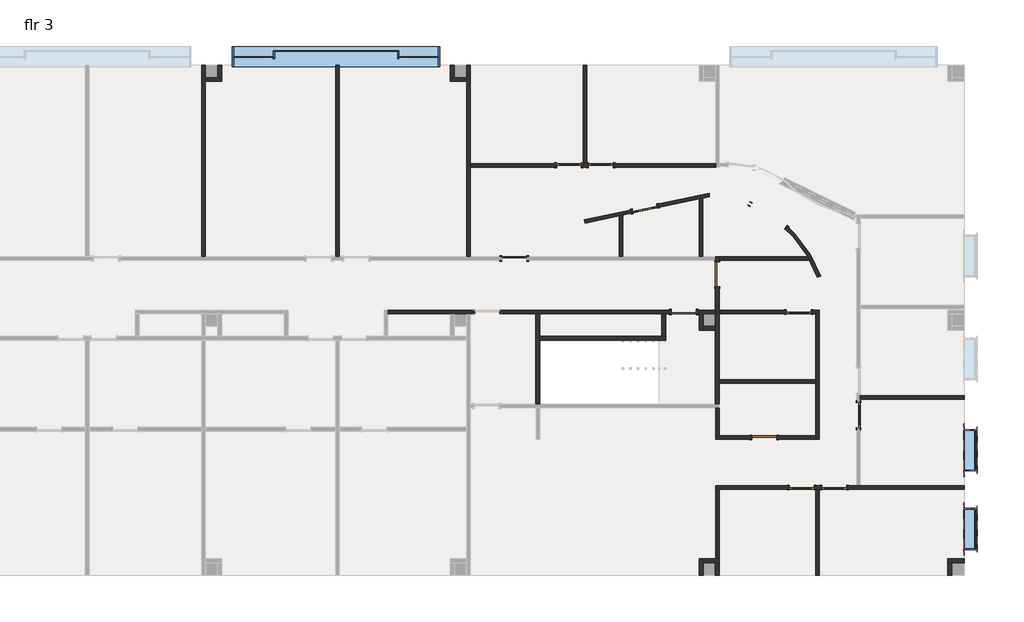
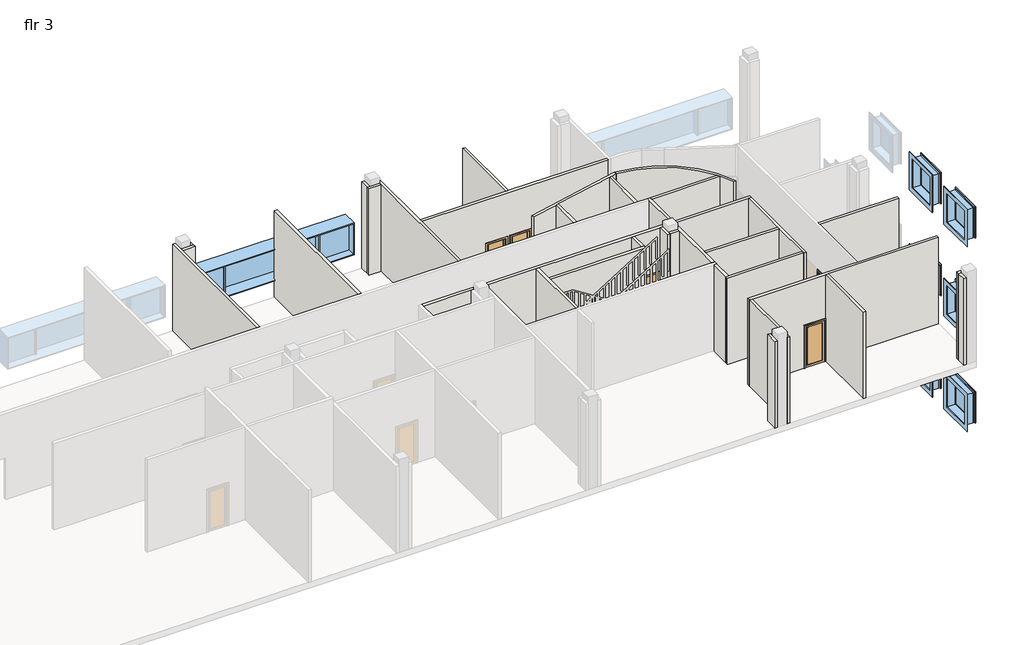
# One storey, part 3 of 4: 37 walls, 12 doors, 7 windows.
"""IFC4 building model written with IfcOpenShell, lengths in millimetres."""

from ifc_helpers import new_model, si_unit, point, frame, frame_2d, origin, place, context, project, spatial, polyline, circle_curve, trimmed, segment, composite_curve, outline, extrude, faceted_brep, transform, mapped, element, save
from ifc_brep_helpers import plane_surface, cylinder_surface, revolved_surface, advanced_brep
from components import door_5638c9d7, door_c6edcd30, door_9814c99b, door_a1797ceb, door_4364fc02, door_009a01e8, door_df34b78b, fixed_25_x5_r1_fixed_25_x5_r1_81c53d64, fixed_5_x5_e2f24dca

model = new_model("IFC4")

# Units and contexts
model_context = context("Model", 3, world=origin())
ifc_project = project(units=[si_unit("LENGTHUNIT", "METRE", prefix="MILLI")], contexts=[model_context])

# Site, building, storey
site = spatial("IfcSite", under=ifc_project)
building = spatial("IfcBuilding", under=site)
storey = spatial("IfcBuildingStorey", under=building, Name="flr 3", Elevation=10210.8)

# Doors
placement = place(None, origin())
door_shape = door_5638c9d7(model_context)
element("IfcDoor", 1, ObjectType="Cased Opening : 60\" x 84\"", at=placement, inside=storey, context=model_context, shape_type="MappedRepresentation", body=[
    mapped(door_shape, transform((-58281.2919841, 38288.5055127, 10210.8), x_axis=(0.8403114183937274, -0.5421039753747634, 0.0), y_axis=(0.5421039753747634, 0.8403114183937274, 0.0), z_axis=(0.0, 0.0, 1.0))),
])
door_2_shape = door_c6edcd30(model_context)
element("IfcDoor", 2, ObjectType="Sgl Flush : 36\" x 84\"", at=placement, inside=storey, context=model_context, shape_type="MappedRepresentation", body=[
    mapped(door_2_shape, transform((-60160.840902, 36141.1571029, 10210.8), x_axis=(0.0, 1.0, 0.0), y_axis=(-1.0, 0.0, 0.0), z_axis=(0.0, 0.0, 1.0))),
])
door_3_shape = door_9814c99b(model_context)
element("IfcDoor", 3, ObjectType="Sgl Flush : 36\" x 84\"", at=placement, inside=storey, context=model_context, shape_type="MappedRepresentation", body=[
    mapped(door_3_shape, transform((-61399.090902, 34756.8571029, 10210.8), x_axis=(1.0, 0.0, 0.0), y_axis=(0.0, 1.0, 0.0), z_axis=(0.0, 0.0, 1.0))),
])
door_4_shape = door_a1797ceb(model_context)
element("IfcDoor", 4, ObjectType="Sgl Flush : 36\" x 84\"", at=placement, inside=storey, context=model_context, shape_type="MappedRepresentation", body=[
    mapped(door_4_shape, transform((-58433.640902, 30146.7571029, 10210.8), x_axis=(1.0, 0.0, 0.0), y_axis=(0.0, 1.0, 0.0), z_axis=(0.0, 0.0, 1.0))),
])
door_5_shape = door_4364fc02(model_context)
element("IfcDoor", 5, ObjectType="Sgl-Glass 1 : 36\" x 84\"", at=placement, inside=storey, context=model_context, shape_type="MappedRepresentation", body=[
    mapped(door_5_shape, transform((-67628.440902, 36725.3571029, 10210.8), x_axis=(-1.0, 0.0, 0.0), y_axis=(0.0, -1.0, 0.0), z_axis=(0.0, 0.0, 1.0))),
])
door_6_shape = door_009a01e8(model_context)
element("IfcDoor", 6, ObjectType="Sgl-Glass 1 : 36\" x 84\"", at=placement, inside=storey, context=model_context, shape_type="MappedRepresentation", body=[
    mapped(door_6_shape, transform((-65615.490902, 40148.0071029, 10210.8), x_axis=(1.0, 0.0, 0.0), y_axis=(0.0, 1.0, 0.0), z_axis=(0.0, 0.0, 1.0))),
])
element("IfcDoor", 7, ObjectType="Sgl-Glass 1 : 36\" x 84\"", at=placement, inside=storey, context=model_context, shape_type="MappedRepresentation", body=[
    mapped(door_6_shape, transform((-55868.240902, 28305.2571029, 10210.8), x_axis=(-1.0, 0.0, 0.0), y_axis=(0.0, -1.0, 0.0), z_axis=(0.0, 0.0, 1.0))),
])
element("IfcDoor", 8, ObjectType="Sgl-Glass 1 : 36\" x 84\"", at=placement, inside=storey, context=model_context, shape_type="MappedRepresentation", body=[
    mapped(door_6_shape, transform((-62821.0675409, 38559.6493203, 10210.8), x_axis=(-0.9777153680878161, -0.20993489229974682, 0.0), y_axis=(0.20993489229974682, -0.9777153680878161, 0.0), z_axis=(0.0, 0.0, 1.0))),
])
door_7_shape = door_df34b78b(model_context)
element("IfcDoor", 9, ObjectType="Sgl-Glass 1 : 36\" x 84\"", at=placement, inside=storey, context=model_context, shape_type="MappedRepresentation", body=[
    mapped(door_7_shape, transform((-64447.090902, 40148.0071029, 10210.8), x_axis=(-1.0, 0.0, 0.0), y_axis=(0.0, -1.0, 0.0), z_axis=(0.0, 0.0, 1.0))),
])
element("IfcDoor", 10, ObjectType="Sgl-Glass 1 : 36\" x 84\"", at=placement, inside=storey, context=model_context, shape_type="MappedRepresentation", body=[
    mapped(door_7_shape, transform((-54972.890902, 30963.7904363, 10210.8), x_axis=(0.0, 1.0, 0.0), y_axis=(-1.0, 0.0, 0.0), z_axis=(0.0, 0.0, 1.0))),
])
element("IfcDoor", 11, ObjectType="Sgl-Glass 1 : 36\" x 84\"", at=placement, inside=storey, context=model_context, shape_type="MappedRepresentation", body=[
    mapped(door_7_shape, transform((-57062.040902, 28305.2571029, 10210.8), x_axis=(1.0, 0.0, 0.0), y_axis=(0.0, 1.0, 0.0), z_axis=(0.0, 0.0, 1.0))),
])
element("IfcDoor", 12, ObjectType="Sgl-Glass 1 : 36\" x 84\"", at=placement, inside=storey, context=model_context, shape_type="MappedRepresentation", body=[
    mapped(door_7_shape, transform((-57163.640902, 34756.8571029, 10210.8), x_axis=(1.0, 0.0, 0.0), y_axis=(0.0, 1.0, 0.0), z_axis=(0.0, 0.0, 1.0))),
])

# Walls
element("IfcWall", 13, ObjectType="Curtain Wall 1", at=placement, inside=storey, context=model_context, shape_type="SweptSolid", body=[
    extrude(outline(composite_curve([segment(polyline([(-57698.775595, 39702.8590145), (-57873.0927335, 39452.8258663)]), True, "CONTINUOUS"), segment(trimmed(circle_curve(frame_2d((-59701.4569562, 36830.2973714)), 3196.9628457), [point((-57873.0927335, 39452.8258663))], [point((-58706.1237347, 39868.3696575))], True, "CARTESIAN"), True, "CONTINUOUS"), segment(polyline([(-58706.1237347, 39868.3696575), (-58611.228179, 40158.0209539)]), True, "CONTINUOUS"), segment(trimmed(circle_curve(frame_2d((-59701.4569562, 36830.2973714)), 3501.7628457), [point((-58611.228179, 40158.0209539))], [point((-57698.775595, 39702.8590145))], False, "CARTESIAN"), True, "CONTINUOUS")], self_intersect=False)), frame((0.0, 0.0, 10210.8), z_axis=(0.0, 0.0, 1.0), x_axis=(1.0, 0.0, 0.0)), (0.0, 0.0, 1.0), 2995.2898284),
])
element("IfcWall", 14, ObjectType="Interior - 4 7/8\" Partition (1-hr)", at=placement, inside=storey, context=model_context, shape_type="SweptSolid", body=[
    extrude(outline(polyline([(-64967.790902, 43832.5946029), (-64967.790902, 40211.5071029), (-65094.790902, 40211.5071029), (-65094.790902, 43832.5946029), (-64967.790902, 43832.5946029)])), frame((0.0, 0.0, 10210.8), z_axis=(0.0, 0.0, 1.0), x_axis=(1.0, 0.0, 0.0)), (0.0, 0.0, 1.0), 4419.6),
])
element("IfcWall", 15, ObjectType="Interior - 4 7/8\" Partition (1-hr)", at=placement, inside=storey, context=model_context, shape_type="Brep", body=[
    faceted_brep([(-64904.290902, 40211.5071029, 12344.4), (-64904.290902, 40211.5071029, 10210.8), (-64967.790902, 40211.5071029, 10210.8), (-65094.790902, 40211.5071029, 10210.8), (-65158.290902, 40211.5071029, 10210.8), (-65158.290902, 40211.5071029, 12344.4), (-66072.690902, 40211.5071029, 12344.4), (-66072.690902, 40211.5071029, 10210.8), (-69234.990902, 40211.5071029, 10210.8), (-69234.990902, 40211.5071029, 14630.4), (-65094.790902, 40211.5071029, 14630.4), (-64967.790902, 40211.5071029, 14630.4), (-60224.340902, 40211.5071029, 14630.4), (-60224.340902, 40211.5071029, 10210.8), (-63989.890902, 40211.5071029, 10210.8), (-63989.890902, 40211.5071029, 12344.4), (-65158.290902, 40084.5071029, 10210.8), (-64904.290902, 40084.5071029, 10210.8), (-64904.290902, 40084.5071029, 12344.4), (-63989.890902, 40084.5071029, 12344.4), (-63989.890902, 40084.5071029, 10210.8), (-60224.340902, 40084.5071029, 10210.8), (-60224.340902, 40084.5071029, 14630.4), (-69234.990902, 40084.5071029, 14630.4), (-69234.990902, 40084.5071029, 10210.8), (-66072.690902, 40084.5071029, 10210.8), (-66072.690902, 40084.5071029, 12344.4), (-65158.290902, 40084.5071029, 12344.4)], [[[0, 1, 2, 3, 4, 5, 6, 7, 8, 9, 10, 11, 12, 13, 14, 15]], [[16, 17, 18, 19, 20, 21, 22, 23, 24, 25, 26, 27]], [[4, 3, 2, 1, 17, 16]], [[25, 24, 8, 7]], [[14, 13, 21, 20]], [[13, 12, 22, 21]], [[9, 8, 24, 23]], [[12, 11, 10, 9, 23, 22]], [[5, 4, 16, 27]], [[6, 5, 27, 26]], [[7, 6, 26, 25]], [[18, 17, 1, 0]], [[19, 18, 0, 15]], [[20, 19, 15, 14]]]),
])
element("IfcWall", 16, ObjectType="Interior - 4 7/8\" Partition (1-hr)", at=placement, inside=storey, context=model_context, shape_type="Brep", body=[
    faceted_brep([(-56325.440902, 28368.7571029, 10210.8), (-56604.840902, 28368.7571029, 10210.8), (-56604.840902, 28368.7571029, 12344.4), (-57519.240902, 28368.7571029, 12344.4), (-57519.240902, 28368.7571029, 10210.8), (-60224.340902, 28368.7571029, 10210.8), (-60224.340902, 28368.7571029, 14630.4), (-55036.390902, 28368.7571029, 14630.4), (-54909.390902, 28368.7571029, 14630.4), (-51085.103402, 28368.7571029, 14630.4), (-51085.103402, 28368.7571029, 10210.8), (-54909.390902, 28368.7571029, 10210.8), (-55036.390902, 28368.7571029, 10210.8), (-55411.040902, 28368.7571029, 10210.8), (-55411.040902, 28368.7571029, 12344.4), (-56325.440902, 28368.7571029, 12344.4), (-56604.840902, 28241.7571029, 12344.4), (-56604.840902, 28241.7571029, 10210.8), (-56541.340902, 28241.7571029, 10210.8), (-56414.340902, 28241.7571029, 10210.8), (-56325.440902, 28241.7571029, 10210.8), (-56325.440902, 28241.7571029, 12344.4), (-55411.040902, 28241.7571029, 12344.4), (-55411.040902, 28241.7571029, 10210.8), (-51085.103402, 28241.7571029, 10210.8), (-51085.103402, 28241.7571029, 14630.4), (-56414.340902, 28241.7571029, 14630.4), (-56541.340902, 28241.7571029, 14630.4), (-60097.340902, 28241.7571029, 14630.4), (-60224.340902, 28241.7571029, 14630.4), (-60224.340902, 28241.7571029, 10210.8), (-60097.340902, 28241.7571029, 10210.8), (-57519.240902, 28241.7571029, 10210.8), (-57519.240902, 28241.7571029, 12344.4)], [[[0, 1, 2, 3, 4, 5, 6, 7, 8, 9, 10, 11, 12, 13, 14, 15]], [[16, 17, 18, 19, 20, 21, 22, 23, 24, 25, 26, 27, 28, 29, 30, 31, 32, 33]], [[20, 19, 18, 17, 1, 0]], [[13, 12, 11, 10, 24, 23]], [[32, 31, 30, 5, 4]], [[6, 5, 30, 29]], [[10, 9, 25, 24]], [[9, 8, 7, 6, 29, 28, 27, 26, 25]], [[21, 20, 0, 15]], [[22, 21, 15, 14]], [[23, 22, 14, 13]], [[2, 1, 17, 16]], [[3, 2, 16, 33]], [[4, 3, 33, 32]]]),
])
element("IfcWall", 17, ObjectType="Interior - 4 7/8\" Partition (1-hr)", at=placement, inside=storey, context=model_context, shape_type="SweptSolid", body=[
    extrude(outline(polyline([(-60097.340902, 28241.7571029), (-60097.340902, 25682.7071029), (-60224.340902, 25682.7071029), (-60224.340902, 28241.7571029), (-60097.340902, 28241.7571029)])), frame((0.0, 0.0, 10210.8), z_axis=(0.0, 0.0, 1.0), x_axis=(1.0, 0.0, 0.0)), (0.0, 0.0, 1.0), 4419.6),
])
element("IfcWall", 18, ObjectType="Interior - 4 7/8\" Partition (1-hr)", at=placement, inside=storey, context=model_context, shape_type="SweptSolid", body=[
    extrude(outline(polyline([(-54909.390902, 31687.6904363), (-51085.103402, 31687.6904363), (-51085.103402, 31560.6904363), (-54909.390902, 31560.6904363), (-54909.390902, 31687.6904363)])), frame((0.0, 0.0, 10210.8), z_axis=(0.0, 0.0, 1.0), x_axis=(1.0, 0.0, 0.0)), (0.0, 0.0, 1.0), 4419.6),
])
element("IfcWall", 19, ObjectType="Interior - 4 7/8\" Partition (1-hr)", at=placement, inside=storey, context=model_context, shape_type="SweptSolid", body=[
    extrude(outline(polyline([(-63646.990902, 38317.3598569), (-63646.990902, 36795.2071029), (-63773.990902, 36795.2071029), (-63773.990902, 38290.0904366), (-63646.990902, 38317.3598569)])), frame((0.0, 0.0, 10210.8), z_axis=(0.0, 0.0, 1.0), x_axis=(1.0, 0.0, 0.0)), (0.0, 0.0, 1.0), 4419.6),
])
element("IfcWall", 20, ObjectType="Interior - 4 7/8\" Partition (1-hr)", at=placement, inside=storey, context=model_context, shape_type="SweptSolid", body=[
    extrude(outline(composite_curve([segment(polyline([(-56766.3376555, 36661.8571029), (-60090.990902, 36661.8571029), (-60090.990902, 36788.8571029), (-56838.8298788, 36788.8571029)]), True, "CONTINUOUS"), segment(trimmed(circle_curve(frame_2d((-60739.4072805, 34478.1989199)), 4533.6128314), [point((-56838.8298788, 36788.8571029))], [point((-56766.3376555, 36661.8571029))], False, "CARTESIAN"), True, "CONTINUOUS")], self_intersect=False)), frame((0.0, 0.0, 10210.8), z_axis=(0.0, 0.0, 1.0), x_axis=(1.0, 0.0, 0.0)), (0.0, 0.0, 1.0), 4419.6),
])
element("IfcWall", 21, ObjectType="Interior - 4 7/8\" Partition (1-hr)", at=placement, inside=storey, context=model_context, shape_type="AdvancedBrep", body=[
    advanced_brep(
    [(-56479.8522527, 36030.5636548, 10210.8), (-56766.3376555, 36661.8571029, 10210.8), (-56838.8298788, 36788.8571029, 10210.8), (-57676.3642184, 37820.5652232, 10210.8), (-57606.5510808, 37928.7820585, 10210.8), (-56360.5294281, 36074.0500152, 10210.8), (-58956.99882, 38646.7316816, 10210.8), (-60454.5013438, 39002.8507201, 10210.8), (-60464.140351, 39130.6756885, 10210.8), (-58887.1856825, 38754.948517, 10210.8), (-57676.3642184, 37820.5652232, 12344.4), (-56479.8522527, 36030.5636548, 14630.4), (-56766.3376555, 36661.8571029, 14630.4), (-56838.8298788, 36788.8571029, 14630.4), (-60454.5013438, 39002.8507201, 14630.4), (-58956.99882, 38646.7316816, 12344.4), (-56360.5294281, 36074.0500152, 14630.4), (-57606.5510808, 37928.7820585, 12344.4), (-58887.1856825, 38754.948517, 12344.4), (-60464.140351, 39130.6756885, 14630.4)],
    [
        (0, 1, circle_curve(frame((-60739.4072805, 34478.1989199, 10210.8), z_axis=(0.0, 0.0, 1.0), x_axis=(1.0, 0.0, 0.0)), 4533.6128314)),
        (1, 2, circle_curve(frame((-60739.4072805, 34478.1989199, 10210.8), z_axis=(0.0, 0.0, 1.0), x_axis=(1.0, 0.0, 0.0)), 4533.6128314)),
        (2, 3, circle_curve(frame((-60739.4072805, 34478.1989199, 10210.8), z_axis=(0.0, 0.0, 1.0), x_axis=(1.0, 0.0, 0.0)), 4533.6128314)),
        (3, 4),
        (4, 5, circle_curve(frame((-60739.4072805, 34478.1989199, 10210.8), z_axis=(0.0, 0.0, -1.0), x_axis=(1.0, 0.0, 0.0)), 4660.6128314)),
        (5, 0),
        (6, 7, circle_curve(frame((-60739.4072805, 34478.1989199, 10210.8), z_axis=(0.0, 0.0, 1.0), x_axis=(1.0, 0.0, 0.0)), 4533.6128314)),
        (7, 8),
        (8, 9, circle_curve(frame((-60739.4072805, 34478.1989199, 10210.8), z_axis=(0.0, 0.0, -1.0), x_axis=(1.0, 0.0, 0.0)), 4660.6128314)),
        (9, 6),
        (10, 3),
        (0, 11),
        (11, 12, circle_curve(frame((-60739.4072805, 34478.1989199, 14630.4), z_axis=(0.0, 0.0, 1.0), x_axis=(1.0, 0.0, 0.0)), 4533.6128314)),
        (12, 13, circle_curve(frame((-60739.4072805, 34478.1989199, 14630.4), z_axis=(0.0, 0.0, 1.0), x_axis=(1.0, 0.0, 0.0)), 4533.6128314)),
        (13, 14, circle_curve(frame((-60739.4072805, 34478.1989199, 14630.4), z_axis=(0.0, 0.0, 1.0), x_axis=(1.0, 0.0, 0.0)), 4533.6128314)),
        (14, 7),
        (6, 15),
        (15, 10, circle_curve(frame((-60739.4072805, 34478.1989199, 12344.4), z_axis=(0.0, 0.0, -1.0), x_axis=(1.0, 0.0, 0.0)), 4533.6128314)),
        (16, 11),
        (5, 16),
        (4, 17),
        (17, 18, circle_curve(frame((-60739.4072805, 34478.1989199, 12344.4), z_axis=(0.0, 0.0, 1.0), x_axis=(1.0, 0.0, 0.0)), 4660.6128314)),
        (18, 9),
        (8, 19),
        (19, 16, circle_curve(frame((-60739.4072805, 34478.1989199, 14630.4), z_axis=(0.0, 0.0, -1.0), x_axis=(1.0, 0.0, 0.0)), 4660.6128314)),
        (14, 19),
        (10, 17),
        (15, 18),
    ],
    [
        plane_surface(frame((-56205.7944491, 34478.1989199, 10210.8), z_axis=(0.0, 0.0, -1.0), x_axis=(0.0, 1.0, 0.0))),
        revolved_surface(polyline([(-56205.7944491, 34478.1989199, 10210.8), (-56205.7944491, 34478.1989199, 14630.4)]), (-60739.4072805, 34478.1989199, 10210.8), (0.0, 0.0, -1.0)),
        plane_surface(frame((-56479.8522527, 36030.5636548, 14630.4), z_axis=(0.34241228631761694, -0.9395497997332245, 0.0), x_axis=(0.0, 0.0, -1.0))),
        cylinder_surface(frame((-60739.4072805, 34478.1989199, 10210.8), z_axis=(0.0, 0.0, 1.0), x_axis=(1.0, 0.0, 0.0)), 4660.6128314),
        plane_surface(frame((-60464.140351, 39130.6756885, 10210.8), z_axis=(-0.9971688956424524, -0.07519437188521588, 0.0), x_axis=(0.07519437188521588, -0.9971688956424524, 0.0))),
        plane_surface(frame((-51085.103402, 43832.5946029, 14630.4), z_axis=(0.0, 0.0, 1.0), x_axis=(0.0, -1.0, 0.0))),
        plane_surface(frame((-57606.5510808, 37928.7820585, 10210.8), z_axis=(-0.8403114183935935, 0.5421039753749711, 0.0), x_axis=(-0.5421039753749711, -0.8403114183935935, 0.0))),
        plane_surface(frame((-57606.5510808, 37928.7820585, 12344.4), z_axis=(0.0, 0.0, -1.0000000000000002), x_axis=(-0.5421039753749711, -0.8403114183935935, 0.0))),
        plane_surface(frame((-58887.1856825, 38754.948517, 12344.4), z_axis=(0.8403114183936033, -0.5421039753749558, 0.0), x_axis=(-0.5421039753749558, -0.8403114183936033, 0.0))),
    ],
    [
        (0, [[1, 2, 3, 4, 5, 6]]),
        (0, [[7, 8, 9, 10]]),
        (1, [[11, -3, -2, -1, 12, 13, 14, 15, 16, -7, 17, 18]]),
        (2, [[19, -12, -6, 20]]),
        (3, [[-5, 21, 22, 23, -9, 24, 25, -20]]),
        (4, [[26, -24, -8, -16]]),
        (5, [[-15, -14, -13, -19, -25, -26]]),
        (6, [[-21, -4, -11, 27]]),
        (7, [[-22, -27, -18, 28]]),
        (8, [[-23, -28, -17, -10]]),
    ],
),
])
element("IfcWall", 22, ObjectType="Interior - 4 7/8\" Partition (1-hr)", at=placement, inside=storey, context=model_context, shape_type="Brep", body=[
    faceted_brep([(-63281.4098729, 38525.7520134, 12344.4), (-63281.4098729, 38525.7520134, 10210.8), (-65044.6217677, 38147.1554286, 10210.8), (-65044.6217677, 38147.1554286, 14630.4), (-60464.140351, 39130.6756885, 14630.4), (-60464.140351, 39130.6756885, 10210.8), (-62387.3869403, 38717.7164789, 10210.8), (-62387.3869403, 38717.7164789, 12344.4), (-65017.9600364, 38022.9855769, 10210.8), (-63773.990902, 38290.0904366, 10210.8), (-63646.990902, 38317.3598569, 10210.8), (-63254.7481416, 38401.5821617, 10210.8), (-63254.7481416, 38401.5821617, 12344.4), (-62360.725209, 38593.5466272, 12344.4), (-62360.725209, 38593.5466272, 10210.8), (-60821.240902, 38924.104459, 10210.8), (-60694.240902, 38951.3738793, 10210.8), (-60454.5013438, 39002.8507201, 10210.8), (-60454.5013438, 39002.8507201, 14630.4), (-60694.240902, 38951.3738793, 14630.4), (-60821.240902, 38924.104459, 14630.4), (-63646.990902, 38317.3598569, 14630.4), (-63773.990902, 38290.0904366, 14630.4), (-65017.9600364, 38022.9855769, 14630.4)], [[[0, 1, 2, 3, 4, 5, 6, 7]], [[8, 9, 10, 11, 12, 13, 14, 15, 16, 17, 18, 19, 20, 21, 22, 23]], [[2, 1, 11, 10, 9, 8]], [[6, 5, 17, 16, 15, 14]], [[3, 2, 8, 23]], [[5, 4, 18, 17]], [[4, 3, 23, 22, 21, 20, 19, 18]], [[12, 11, 1, 0]], [[13, 12, 0, 7]], [[14, 13, 7, 6]]]),
])
element("IfcWall", 23, ObjectType="Interior - 4 7/8\" Partition (1-hr)", at=placement, inside=storey, context=model_context, shape_type="Brep", body=[
    faceted_brep([(-56706.440902, 34693.3571029, 12344.4), (-56706.440902, 34693.3571029, 10210.8), (-56541.340902, 34693.3571029, 10210.8), (-56414.340902, 34693.3571029, 10210.8), (-56414.340902, 34693.3571029, 14630.4), (-56541.340902, 34693.3571029, 14630.4), (-60090.990902, 34693.3571029, 14630.4), (-60090.990902, 34693.3571029, 10210.8), (-57620.840902, 34693.3571029, 10210.8), (-57620.840902, 34693.3571029, 12344.4), (-56414.340902, 34820.3571029, 10210.8), (-56706.440902, 34820.3571029, 10210.8), (-56706.440902, 34820.3571029, 12344.4), (-57620.840902, 34820.3571029, 12344.4), (-57620.840902, 34820.3571029, 10210.8), (-60090.990902, 34820.3571029, 10210.8), (-60090.990902, 34820.3571029, 14630.4), (-56414.340902, 34820.3571029, 14630.4), (-60090.990902, 34756.8571029, 10210.8), (-60090.990902, 34756.8571029, 14630.4)], [[[0, 1, 2, 3, 4, 5, 6, 7, 8, 9]], [[10, 11, 12, 13, 14, 15, 16, 17]], [[3, 2, 1, 11, 10]], [[8, 7, 18, 15, 14]], [[4, 3, 10, 17]], [[7, 6, 19, 16, 15, 18]], [[6, 5, 4, 17, 16, 19]], [[12, 11, 1, 0]], [[13, 12, 0, 9]], [[14, 13, 9, 8]]]),
])
element("IfcWall", 24, ObjectType="Interior - 4 7/8\" Partition (1-hr)", at=placement, inside=storey, context=model_context, shape_type="Brep", body=[
    faceted_brep([(-56541.340902, 34693.3571029, 10210.8), (-56541.340902, 32267.6571029, 10210.8), (-56541.340902, 32140.6571029, 10210.8), (-56541.340902, 30210.2571029, 10210.8), (-56541.340902, 30083.2571029, 10210.8), (-56541.340902, 30083.2571029, 14630.4), (-56541.340902, 30210.2571029, 14630.4), (-56541.340902, 32140.6571029, 14630.4), (-56541.340902, 32267.6571029, 14630.4), (-56541.340902, 34693.3571029, 14630.4), (-56414.340902, 34693.3571029, 10210.8), (-56414.340902, 34693.3571029, 14630.4), (-56414.340902, 30083.2571029, 14630.4), (-56414.340902, 30083.2571029, 10210.8)], [[[0, 1, 2, 3, 4, 5, 6, 7, 8, 9]], [[10, 11, 12, 13]], [[4, 3, 2, 1, 0, 10, 13]], [[5, 4, 13, 12]], [[0, 9, 11, 10]], [[9, 8, 7, 6, 5, 12, 11]]]),
])
element("IfcWall", 25, ObjectType="Interior - 4 7/8\" Partition (1-hr)", at=placement, inside=storey, context=model_context, shape_type="Brep", body=[
    faceted_brep([(-56541.340902, 30210.2571029, 10210.8), (-57976.440902, 30210.2571029, 10210.8), (-57976.440902, 30210.2571029, 12344.4), (-58890.840902, 30210.2571029, 12344.4), (-58890.840902, 30210.2571029, 10210.8), (-60097.340902, 30210.2571029, 10210.8), (-60224.340902, 30210.2571029, 10210.8), (-60224.340902, 30210.2571029, 14630.4), (-60097.340902, 30210.2571029, 14630.4), (-56541.340902, 30210.2571029, 14630.4), (-57976.440902, 30083.2571029, 12344.4), (-57976.440902, 30083.2571029, 10210.8), (-56541.340902, 30083.2571029, 10210.8), (-56541.340902, 30083.2571029, 14630.4), (-60224.340902, 30083.2571029, 14630.4), (-60224.340902, 30083.2571029, 10210.8), (-58890.840902, 30083.2571029, 10210.8), (-58890.840902, 30083.2571029, 12344.4)], [[[0, 1, 2, 3, 4, 5, 6, 7, 8, 9]], [[10, 11, 12, 13, 14, 15, 16, 17]], [[12, 11, 1, 0]], [[16, 15, 6, 5, 4]], [[7, 6, 15, 14]], [[0, 9, 13, 12]], [[9, 8, 7, 14, 13]], [[2, 1, 11, 10]], [[3, 2, 10, 17]], [[4, 3, 17, 16]]]),
])
element("IfcWall", 26, ObjectType="Interior - 4 7/8\" Partition (1-hr)", at=placement, inside=storey, context=model_context, shape_type="SweptSolid", body=[
    extrude(outline(polyline([(-60097.340902, 31232.6071029), (-60097.340902, 30210.2571029), (-60224.340902, 30210.2571029), (-60224.340902, 31232.6071029), (-60097.340902, 31232.6071029)])), frame((0.0, 0.0, 10210.8), z_axis=(0.0, 0.0, 1.0), x_axis=(1.0, 0.0, 0.0)), (0.0, 0.0, 1.0), 4419.6),
])
element("IfcWall", 27, ObjectType="Interior - 4 7/8\" Partition (1-hr)", at=placement, inside=storey, context=model_context, shape_type="SweptSolid", body=[
    extrude(outline(polyline([(-60821.240902, 36795.2071029), (-60821.240902, 38924.104459), (-60694.240902, 38951.3738793), (-60694.240902, 36795.2071029), (-60821.240902, 36795.2071029)])), frame((0.0, 0.0, 10210.8), z_axis=(0.0, 0.0, 1.0), x_axis=(1.0, 0.0, 0.0)), (0.0, 0.0, 1.0), 4419.6),
])
element("IfcWall", 28, ObjectType="Interior - 4 7/8\" Partition (1-hr)", at=placement, inside=storey, context=model_context, shape_type="SweptSolid", body=[
    extrude(outline(polyline([(-60090.990902, 32267.6571029), (-56541.340902, 32267.6571029), (-56541.340902, 32140.6571029), (-60090.990902, 32140.6571029), (-60090.990902, 32267.6571029)])), frame((0.0, 0.0, 10210.8), z_axis=(0.0, 0.0, 1.0), x_axis=(1.0, 0.0, 0.0)), (0.0, 0.0, 1.0), 4419.6),
])
element("IfcWall", 29, ObjectType="Interior - 4 7/8\" Partition (1-hr)", at=placement, inside=storey, context=model_context, shape_type="SweptSolid", body=[
    extrude(outline(polyline([(-56541.340902, 25084.2196029), (-56541.340902, 28241.7571029), (-56414.340902, 28241.7571029), (-56414.340902, 25084.2196029), (-56541.340902, 25084.2196029)])), frame((0.0, 0.0, 10210.8), z_axis=(0.0, 0.0, 1.0), x_axis=(1.0, 0.0, 0.0)), (0.0, 0.0, 1.0), 4419.6),
])
element("IfcWall", 30, ObjectType="Interior - 5 1/2\" Partition (1-hr)", at=placement, inside=storey, context=model_context, shape_type="SweptSolid", body=[
    extrude(outline(polyline([(-62205.540902, 33867.8571029), (-62205.540902, 34687.0071029), (-62065.840902, 34687.0071029), (-62065.840902, 33867.8571029), (-62205.540902, 33867.8571029)])), frame((0.0, 0.0, 10210.8), z_axis=(0.0, 0.0, 1.0), x_axis=(1.0, 0.0, 0.0)), (0.0, 0.0, 1.0), 4419.6),
])
element("IfcWall", 31, ObjectType="Interior - 5 1/2\" Partition (1-hr)", at=placement, inside=storey, context=model_context, shape_type="Brep", body=[
    faceted_brep([(-60827.590902, 34687.0071029, 10210.8), (-60827.590902, 34090.1071029, 10210.8), (-60827.590902, 34090.1071029, 14630.4), (-60827.590902, 34687.0071029, 14630.4), (-60687.890902, 34687.0071029, 10210.8), (-60687.890902, 34687.0071029, 14630.4), (-60687.890902, 34229.8071029, 14630.4), (-60687.890902, 34090.1071029, 14630.4), (-60687.890902, 34090.1071029, 10210.8), (-60687.890902, 34229.8071029, 10210.8)], [[[0, 1, 2, 3]], [[4, 5, 6, 7, 8, 9]], [[1, 0, 4, 9, 8]], [[2, 1, 8, 7]], [[0, 3, 5, 4]], [[3, 2, 7, 6, 5]]]),
])
element("IfcWall", 32, ObjectType="Interior - 5 1/2\" Partition (1-hr)", at=placement, inside=storey, context=model_context, shape_type="SweptSolid", body=[
    extrude(outline(polyline([(-60687.890902, 34229.8071029), (-60230.690902, 34229.8071029), (-60230.690902, 34090.1071029), (-60687.890902, 34090.1071029), (-60687.890902, 34229.8071029)])), frame((0.0, 0.0, 10210.8), z_axis=(0.0, 0.0, 1.0), x_axis=(1.0, 0.0, 0.0)), (0.0, 0.0, 1.0), 4419.6),
])
element("IfcWall", 33, ObjectType="Interior - 5 1/2\" Partition (1-hr)", at=placement, inside=storey, context=model_context, shape_type="Brep", body=[
    faceted_brep([(-66828.340902, 34687.0071029, 10210.8), (-66828.340902, 31372.3071029, 10210.8), (-66828.340902, 31372.3071029, 14630.4), (-66828.340902, 34687.0071029, 14630.4), (-66688.640902, 34687.0071029, 10210.8), (-66688.640902, 34687.0071029, 14630.4), (-66688.640902, 33867.8571029, 14630.4), (-66688.640902, 33728.1571029, 14630.4), (-66688.640902, 31372.3071029, 14630.4), (-66688.640902, 31372.3071029, 10210.8), (-66688.640902, 33728.1571029, 10210.8), (-66688.640902, 33867.8571029, 10210.8)], [[[0, 1, 2, 3]], [[4, 5, 6, 7, 8, 9, 10, 11]], [[1, 0, 4, 11, 10, 9]], [[2, 1, 9, 8]], [[0, 3, 5, 4]], [[3, 2, 8, 7, 6, 5]]]),
])
element("IfcWall", 34, ObjectType="Interior - 5 1/2\" Partition (1-hr)", at=placement, inside=storey, context=model_context, shape_type="Brep", body=[
    faceted_brep([(-66688.640902, 33728.1571029, 10210.8), (-62065.840902, 33728.1571029, 10210.8), (-62065.840902, 33728.1571029, 14630.4), (-66688.640902, 33728.1571029, 14630.4), (-66688.640902, 33867.8571029, 10210.8), (-66688.640902, 33867.8571029, 14630.4), (-62205.540902, 33867.8571029, 14630.4), (-62065.840902, 33867.8571029, 14630.4), (-62065.840902, 33867.8571029, 10210.8), (-62205.540902, 33867.8571029, 10210.8)], [[[0, 1, 2, 3]], [[4, 5, 6, 7, 8, 9]], [[1, 0, 4, 9, 8]], [[2, 1, 8, 7]], [[0, 3, 5, 4]], [[3, 2, 7, 6, 5]]]),
])
element("IfcWall", 35, ObjectType="Interior - 5 1/2\" Partition (1-hr)", at=placement, inside=storey, context=model_context, shape_type="Brep", body=[
    faceted_brep([(-69234.990902, 36795.2071029, 10210.8), (-69234.990902, 40084.5071029, 10210.8), (-69234.990902, 40211.5071029, 10210.8), (-69234.990902, 43832.5946029, 10210.8), (-69234.990902, 43832.5946029, 14630.4), (-69234.990902, 40211.5071029, 14630.4), (-69234.990902, 40084.5071029, 14630.4), (-69234.990902, 36795.2071029, 14630.4), (-69374.690902, 36795.2071029, 10210.8), (-69374.690902, 36795.2071029, 14630.4), (-69374.690902, 43234.1071029, 14630.4), (-69374.690902, 43373.8071029, 14630.4), (-69374.690902, 43832.5946029, 14630.4), (-69374.690902, 43832.5946029, 10210.8), (-69374.690902, 43373.8071029, 10210.8), (-69374.690902, 43234.1071029, 10210.8)], [[[0, 1, 2, 3, 4, 5, 6, 7]], [[8, 9, 10, 11, 12, 13, 14, 15]], [[3, 2, 1, 0, 8, 15, 14, 13]], [[0, 7, 9, 8]], [[4, 3, 13, 12]], [[7, 6, 5, 4, 12, 11, 10, 9]]]),
])
element("IfcWall", 36, ObjectType="Interior - 5 1/2\" Partition (1-hr)", at=placement, inside=storey, context=model_context, shape_type="Brep", body=[
    faceted_brep([(-69374.690902, 43373.8071029, 10210.8), (-69831.890902, 43373.8071029, 10210.8), (-69971.590902, 43373.8071029, 10210.8), (-69971.590902, 43373.8071029, 14630.4), (-69831.890902, 43373.8071029, 14630.4), (-69374.690902, 43373.8071029, 14630.4), (-69374.690902, 43234.1071029, 10210.8), (-69374.690902, 43234.1071029, 14630.4), (-69971.590902, 43234.1071029, 14630.4), (-69971.590902, 43234.1071029, 10210.8)], [[[0, 1, 2, 3, 4, 5]], [[6, 7, 8, 9]], [[2, 1, 0, 6, 9]], [[3, 2, 9, 8]], [[0, 5, 7, 6]], [[5, 4, 3, 8, 7]]]),
])
element("IfcWall", 37, ObjectType="Interior - 5 1/2\" Partition (1-hr)", at=placement, inside=storey, context=model_context, shape_type="SweptSolid", body=[
    extrude(outline(polyline([(-69831.890902, 43832.5946029), (-69831.890902, 43373.8071029), (-69971.590902, 43373.8071029), (-69971.590902, 43832.5946029), (-69831.890902, 43832.5946029)])), frame((0.0, 0.0, 10210.8), z_axis=(0.0, 0.0, 1.0), x_axis=(1.0, 0.0, 0.0)), (0.0, 0.0, 1.0), 4419.6),
])
element("IfcWall", 38, ObjectType="Interior - 5 1/2\" Partition (1-hr)", at=placement, inside=storey, context=model_context, shape_type="Brep", body=[
    faceted_brep([(-79115.590902, 43832.5946029, 10210.8), (-79115.590902, 36795.2071029, 10210.8), (-79115.590902, 36795.2071029, 14630.4), (-79115.590902, 43832.5946029, 14630.4), (-78975.890902, 43832.5946029, 10210.8), (-78975.890902, 43832.5946029, 14630.4), (-78975.890902, 43373.8071029, 14630.4), (-78975.890902, 43234.1071029, 14630.4), (-78975.890902, 36795.2071029, 14630.4), (-78975.890902, 36795.2071029, 10210.8), (-78975.890902, 43234.1071029, 10210.8), (-78975.890902, 43373.8071029, 10210.8)], [[[0, 1, 2, 3]], [[4, 5, 6, 7, 8, 9, 10, 11]], [[1, 0, 4, 11, 10, 9]], [[0, 3, 5, 4]], [[2, 1, 9, 8]], [[3, 2, 8, 7, 6, 5]]]),
])
element("IfcWall", 39, ObjectType="Interior - 5 1/2\" Partition (1-hr)", at=placement, inside=storey, context=model_context, shape_type="Brep", body=[
    faceted_brep([(-78975.890902, 43234.1071029, 10210.8), (-78378.990902, 43234.1071029, 10210.8), (-78378.990902, 43234.1071029, 14630.4), (-78975.890902, 43234.1071029, 14630.4), (-78975.890902, 43373.8071029, 10210.8), (-78975.890902, 43373.8071029, 14630.4), (-78518.690902, 43373.8071029, 14630.4), (-78378.990902, 43373.8071029, 14630.4), (-78378.990902, 43373.8071029, 10210.8), (-78518.690902, 43373.8071029, 10210.8)], [[[0, 1, 2, 3]], [[4, 5, 6, 7, 8, 9]], [[1, 0, 4, 9, 8]], [[2, 1, 8, 7]], [[0, 3, 5, 4]], [[3, 2, 7, 6, 5]]]),
])
element("IfcWall", 40, ObjectType="Interior - 5 1/2\" Partition (1-hr)", at=placement, inside=storey, context=model_context, shape_type="SweptSolid", body=[
    extrude(outline(polyline([(-78378.990902, 43832.5946029), (-78378.990902, 43373.8071029), (-78518.690902, 43373.8071029), (-78518.690902, 43832.5946029), (-78378.990902, 43832.5946029)])), frame((0.0, 0.0, 10210.8), z_axis=(0.0, 0.0, 1.0), x_axis=(1.0, 0.0, 0.0)), (0.0, 0.0, 1.0), 4419.6),
])
element("IfcWall", 41, ObjectType="Interior - 5 1/2\" Partition (1-hr)", at=placement, inside=storey, context=model_context, shape_type="Brep", body=[
    faceted_brep([(-72270.290902, 34687.0071029, 10210.8), (-69971.590902, 34687.0071029, 10210.8), (-69831.890902, 34687.0071029, 10210.8), (-69374.690902, 34687.0071029, 10210.8), (-69234.990902, 34687.0071029, 10210.8), (-69076.240902, 34687.0071029, 10210.8), (-69076.240902, 34687.0071029, 12344.4), (-68161.840902, 34687.0071029, 12344.4), (-68161.840902, 34687.0071029, 10210.8), (-66828.340902, 34687.0071029, 10210.8), (-66688.640902, 34687.0071029, 10210.8), (-62205.540902, 34687.0071029, 10210.8), (-62065.840902, 34687.0071029, 10210.8), (-61856.290902, 34687.0071029, 10210.8), (-61856.290902, 34687.0071029, 12344.4), (-60941.890902, 34687.0071029, 12344.4), (-60941.890902, 34687.0071029, 10210.8), (-60827.590902, 34687.0071029, 10210.8), (-60687.890902, 34687.0071029, 10210.8), (-60230.690902, 34687.0071029, 10210.8), (-60230.690902, 34687.0071029, 14630.4), (-60687.890902, 34687.0071029, 14630.4), (-60827.590902, 34687.0071029, 14630.4), (-62065.840902, 34687.0071029, 14630.4), (-62205.540902, 34687.0071029, 14630.4), (-66688.640902, 34687.0071029, 14630.4), (-66828.340902, 34687.0071029, 14630.4), (-69234.990902, 34687.0071029, 14630.4), (-69374.690902, 34687.0071029, 14630.4), (-69831.890902, 34687.0071029, 14630.4), (-69971.590902, 34687.0071029, 14630.4), (-72270.290902, 34687.0071029, 14630.4), (-69076.240902, 34826.7071029, 12344.4), (-69076.240902, 34826.7071029, 10210.8), (-72270.290902, 34826.7071029, 10210.8), (-72270.290902, 34826.7071029, 14630.4), (-60230.690902, 34826.7071029, 14630.4), (-60230.690902, 34826.7071029, 10210.8), (-60941.890902, 34826.7071029, 10210.8), (-60941.890902, 34826.7071029, 12344.4), (-61856.290902, 34826.7071029, 12344.4), (-61856.290902, 34826.7071029, 10210.8), (-68161.840902, 34826.7071029, 10210.8), (-68161.840902, 34826.7071029, 12344.4), (-60230.690902, 34756.8571029, 10210.8), (-60230.690902, 34756.8571029, 14630.4)], [[[0, 1, 2, 3, 4, 5, 6, 7, 8, 9, 10, 11, 12, 13, 14, 15, 16, 17, 18, 19, 20, 21, 22, 23, 24, 25, 26, 27, 28, 29, 30, 31]], [[32, 33, 34, 35, 36, 37, 38, 39, 40, 41, 42, 43]], [[19, 18, 17, 16, 38, 37, 44]], [[34, 33, 5, 4, 3, 2, 1, 0]], [[42, 41, 13, 12, 11, 10, 9, 8]], [[0, 31, 35, 34]], [[20, 19, 44, 37, 36, 45]], [[31, 30, 29, 28, 27, 26, 25, 24, 23, 22, 21, 20, 45, 36, 35]], [[39, 38, 16, 15]], [[40, 39, 15, 14]], [[41, 40, 14, 13]], [[6, 5, 33, 32]], [[7, 6, 32, 43]], [[8, 7, 43, 42]]]),
])
element("IfcWall", 42, ObjectType="Interior - 5 1/2\" Partition (1-hr)", at=placement, inside=storey, context=model_context, shape_type="Brep", body=[
    faceted_brep([(-60687.890902, 25084.2196029, 10210.8), (-60687.890902, 25543.0071029, 10210.8), (-60687.890902, 25682.7071029, 10210.8), (-60687.890902, 25682.7071029, 14630.4), (-60687.890902, 25543.0071029, 14630.4), (-60687.890902, 25084.2196029, 14630.4), (-60827.590902, 25084.2196029, 10210.8), (-60827.590902, 25084.2196029, 14630.4), (-60827.590902, 25682.7071029, 14630.4), (-60827.590902, 25682.7071029, 10210.8)], [[[0, 1, 2, 3, 4, 5]], [[6, 7, 8, 9]], [[2, 1, 0, 6, 9]], [[3, 2, 9, 8]], [[0, 5, 7, 6]], [[5, 4, 3, 8, 7]]]),
])
element("IfcWall", 43, ObjectType="Interior - 5 1/2\" Partition (1-hr)", at=placement, inside=storey, context=model_context, shape_type="Brep", body=[
    faceted_brep([(-60687.890902, 25543.0071029, 10210.8), (-60230.690902, 25543.0071029, 10210.8), (-60090.990902, 25543.0071029, 10210.8), (-60090.990902, 25543.0071029, 14630.4), (-60230.690902, 25543.0071029, 14630.4), (-60687.890902, 25543.0071029, 14630.4), (-60687.890902, 25682.7071029, 10210.8), (-60687.890902, 25682.7071029, 14630.4), (-60224.340902, 25682.7071029, 14630.4), (-60097.340902, 25682.7071029, 14630.4), (-60090.990902, 25682.7071029, 14630.4), (-60090.990902, 25682.7071029, 10210.8), (-60097.340902, 25682.7071029, 10210.8), (-60224.340902, 25682.7071029, 10210.8)], [[[0, 1, 2, 3, 4, 5]], [[6, 7, 8, 9, 10, 11, 12, 13]], [[2, 1, 0, 6, 13, 12, 11]], [[3, 2, 11, 10]], [[0, 5, 7, 6]], [[5, 4, 3, 10, 9, 8, 7]]]),
])
element("IfcWall", 44, ObjectType="Interior - 5 1/2\" Partition (1-hr)", at=placement, inside=storey, context=model_context, shape_type="SweptSolid", body=[
    extrude(outline(polyline([(-60230.690902, 25084.2196029), (-60230.690902, 25543.0071029), (-60090.990902, 25543.0071029), (-60090.990902, 25084.2196029), (-60230.690902, 25084.2196029)])), frame((0.0, 0.0, 10210.8), z_axis=(0.0, 0.0, 1.0), x_axis=(1.0, 0.0, 0.0)), (0.0, 0.0, 1.0), 4419.6),
])
element("IfcWall", 45, ObjectType="Interior - 5 1/2\" Partition (1-hr)", at=placement, inside=storey, context=model_context, shape_type="Brep", body=[
    faceted_brep([(-51085.103402, 25682.7071029, 10210.8), (-51683.590902, 25682.7071029, 10210.8), (-51683.590902, 25682.7071029, 14630.4), (-51085.103402, 25682.7071029, 14630.4), (-51085.103402, 25543.0071029, 10210.8), (-51085.103402, 25543.0071029, 14630.4), (-51543.890902, 25543.0071029, 14630.4), (-51683.590902, 25543.0071029, 14630.4), (-51683.590902, 25543.0071029, 10210.8), (-51543.890902, 25543.0071029, 10210.8)], [[[0, 1, 2, 3]], [[4, 5, 6, 7, 8, 9]], [[1, 0, 4, 9, 8]], [[2, 1, 8, 7]], [[0, 3, 5, 4]], [[3, 2, 7, 6, 5]]]),
])
element("IfcWall", 46, ObjectType="Interior - 5 1/2\" Partition (1-hr)", at=placement, inside=storey, context=model_context, shape_type="SweptSolid", body=[
    extrude(outline(polyline([(-51683.590902, 25084.2196029), (-51683.590902, 25543.0071029), (-51543.890902, 25543.0071029), (-51543.890902, 25084.2196029), (-51683.590902, 25084.2196029)])), frame((0.0, 0.0, 10210.8), z_axis=(0.0, 0.0, 1.0), x_axis=(1.0, 0.0, 0.0)), (0.0, 0.0, 1.0), 4419.6),
])
element("IfcWall", 47, ObjectType="Interior - 5 1/2\" Partition (1-hr)", at=placement, inside=storey, context=model_context, shape_type="Brep", body=[
    faceted_brep([(-60090.990902, 31372.3071029, 10210.8), (-60090.990902, 32140.6571029, 10210.8), (-60090.990902, 32267.6571029, 10210.8), (-60090.990902, 34693.3571029, 10210.8), (-60090.990902, 34756.8571029, 10210.8), (-60090.990902, 34756.8571029, 14630.4), (-60090.990902, 34693.3571029, 14630.4), (-60090.990902, 32267.6571029, 14630.4), (-60090.990902, 32140.6571029, 14630.4), (-60090.990902, 31372.3071029, 14630.4), (-60230.690902, 31372.3071029, 10210.8), (-60230.690902, 31372.3071029, 14630.4), (-60230.690902, 34090.1071029, 14630.4), (-60230.690902, 34229.8071029, 14630.4), (-60230.690902, 34687.0071029, 14630.4), (-60230.690902, 34756.8571029, 14630.4), (-60230.690902, 34756.8571029, 10210.8), (-60230.690902, 34687.0071029, 10210.8), (-60230.690902, 34229.8071029, 10210.8), (-60230.690902, 34090.1071029, 10210.8)], [[[0, 1, 2, 3, 4, 5, 6, 7, 8, 9]], [[10, 11, 12, 13, 14, 15, 16, 17, 18, 19]], [[4, 3, 2, 1, 0, 10, 19, 18, 17, 16]], [[5, 4, 16, 15]], [[0, 9, 11, 10]], [[9, 8, 7, 6, 5, 15, 14, 13, 12, 11]]]),
])
element("IfcWall", 48, ObjectType="Interior - 5 1/2\" Partition (1-hr)", at=placement, inside=storey, context=model_context, shape_type="SweptSolid", body=[
    extrude(outline(polyline([(-74054.640902, 43832.5946029), (-74054.640902, 36795.2071029), (-74194.340902, 36795.2071029), (-74194.340902, 43832.5946029), (-74054.640902, 43832.5946029)])), frame((0.0, 0.0, 10210.8), z_axis=(0.0, 0.0, 1.0), x_axis=(1.0, 0.0, 0.0)), (0.0, 0.0, 1.0), 4419.6),
])
element("IfcWall", 49, ObjectType="Interior - 5 1/2\" Partition (1-hr)", at=placement, inside=storey, context=model_context, shape_type="Brep", body=[
    faceted_brep([(-60090.990902, 36598.3571029, 12344.4), (-60090.990902, 36598.3571029, 10210.8), (-60090.990902, 36661.8571029, 10210.8), (-60090.990902, 36788.8571029, 10210.8), (-60090.990902, 36795.2071029, 10210.8), (-60090.990902, 36795.2071029, 14630.4), (-60090.990902, 36788.8571029, 14630.4), (-60090.990902, 36661.8571029, 14630.4), (-60090.990902, 34820.3571029, 14630.4), (-60090.990902, 34756.8571029, 14630.4), (-60090.990902, 34756.8571029, 10210.8), (-60090.990902, 34820.3571029, 10210.8), (-60090.990902, 35683.9571029, 10210.8), (-60090.990902, 35683.9571029, 12344.4), (-60230.690902, 36795.2071029, 10210.8), (-60230.690902, 36655.5071029, 10210.8), (-60230.690902, 36598.3571029, 10210.8), (-60230.690902, 36598.3571029, 12344.4), (-60230.690902, 35683.9571029, 12344.4), (-60230.690902, 35683.9571029, 10210.8), (-60230.690902, 34826.7071029, 10210.8), (-60230.690902, 34756.8571029, 10210.8), (-60230.690902, 34756.8571029, 14630.4), (-60230.690902, 34826.7071029, 14630.4), (-60230.690902, 36655.5071029, 14630.4), (-60230.690902, 36795.2071029, 14630.4)], [[[0, 1, 2, 3, 4, 5, 6, 7, 8, 9, 10, 11, 12, 13]], [[14, 15, 16, 17, 18, 19, 20, 21, 22, 23, 24, 25]], [[4, 3, 2, 1, 16, 15, 14]], [[12, 11, 10, 21, 20, 19]], [[10, 9, 22, 21]], [[5, 4, 14, 25]], [[9, 8, 7, 6, 5, 25, 24, 23, 22]], [[17, 16, 1, 0]], [[18, 17, 0, 13]], [[19, 18, 13, 12]]]),
])

# Windows
fixed_25_x5_r1_fixed_25_x5_r1_shape = fixed_25_x5_r1_fixed_25_x5_r1_81c53d64(model_context)
element("IfcWindow", 50, ObjectType="Fixed 25'x5'-r1 : Fixed 25'x5'-r1", at=placement, inside=storey, context=model_context, shape_type="MappedRepresentation", body=[
    mapped(fixed_25_x5_r1_fixed_25_x5_r1_shape, transform((-73921.290902, 44059.6071029, 10210.8), x_axis=(1.0, 0.0, 0.0), y_axis=(0.0, 1.0, 0.0), z_axis=(0.0, 0.0, 1.0))),
])
fixed_5_x5_shape = fixed_5_x5_e2f24dca(model_context)
element("IfcWindow", 51, ObjectType="Fixed : 5'x5'", at=placement, inside=storey, context=model_context, shape_type="MappedRepresentation", body=[
    mapped(fixed_5_x5_shape, transform((-50858.090902, 26743.1571029, 10210.8), x_axis=(0.0, -1.0, 0.0), y_axis=(1.0, 0.0, 0.0), z_axis=(0.0, 0.0, 1.0))),
])
element("IfcWindow", 52, ObjectType="Fixed : 5'x5'", at=placement, inside=storey, context=model_context, shape_type="MappedRepresentation", body=[
    mapped(fixed_5_x5_shape, transform((-50858.090902, 29638.7571029, 10210.8), x_axis=(0.0, -1.0, 0.0), y_axis=(1.0, 0.0, 0.0), z_axis=(0.0, 0.0, 1.0))),
])
element("IfcWindow", 53, ObjectType="Fixed : 5'x5'", at=placement, inside=storey, context=model_context, shape_type="MappedRepresentation", body=[
    mapped(fixed_5_x5_shape, transform((-50858.090902, 26743.1571029, 5461.0), x_axis=(0.0, -1.0, 0.0), y_axis=(1.0, 0.0, 0.0), z_axis=(0.0, 0.0, 1.0))),
])
element("IfcWindow", 54, ObjectType="Fixed : 5'x5'", at=placement, inside=storey, context=model_context, shape_type="MappedRepresentation", body=[
    mapped(fixed_5_x5_shape, transform((-50858.090902, 29638.7571029, 5461.0), x_axis=(0.0, -1.0, 0.0), y_axis=(1.0, 0.0, 0.0), z_axis=(0.0, 0.0, 1.0))),
])
element("IfcWindow", 55, ObjectType="Fixed : 5'x5'", at=placement, inside=storey, context=model_context, shape_type="MappedRepresentation", body=[
    mapped(fixed_5_x5_shape, transform((-50858.090902, 26743.1571029, 14909.8), x_axis=(0.0, -1.0, 0.0), y_axis=(1.0, 0.0, 0.0), z_axis=(0.0, 0.0, 1.0))),
])
element("IfcWindow", 56, ObjectType="Fixed : 5'x5'", at=placement, inside=storey, context=model_context, shape_type="MappedRepresentation", body=[
    mapped(fixed_5_x5_shape, transform((-50858.090902, 29638.7571029, 14909.8), x_axis=(0.0, -1.0, 0.0), y_axis=(1.0, 0.0, 0.0), z_axis=(0.0, 0.0, 1.0))),
])

save(model, "model.ifc")
